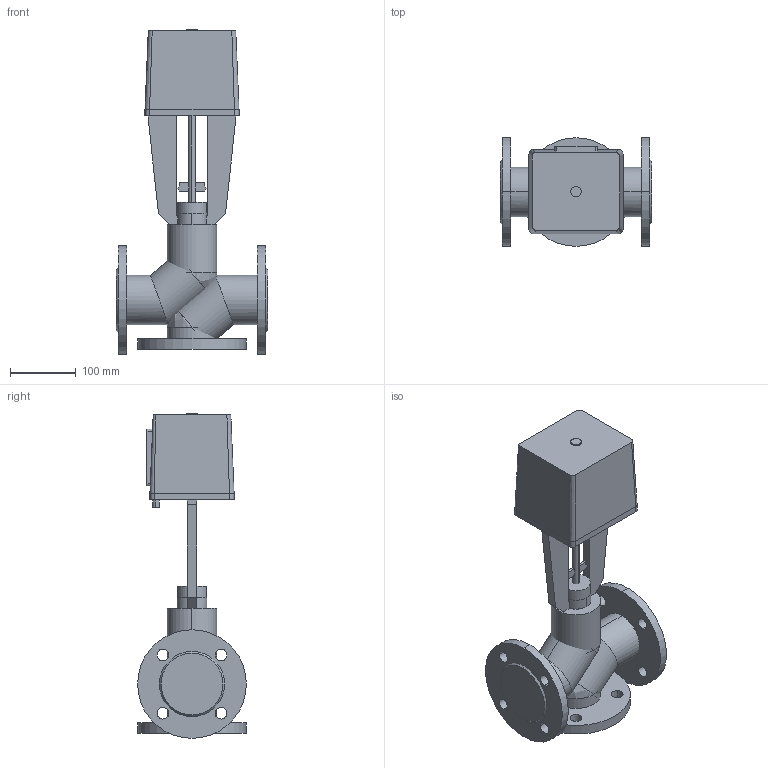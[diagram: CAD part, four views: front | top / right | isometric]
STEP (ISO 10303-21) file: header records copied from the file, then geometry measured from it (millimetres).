
FILE_DESCRIPTION(/* description */ (''),/* implementation_level */ '2;1');
FILE_NAME(/* name */ 'ТРК DN50 PN 1.6 МПа LEA 1200',/* time_stamp */ '2026-07-14T23:10:12+03:00',/* author */ (''),/* organization */ (''),/* preprocessor_version */ 'ST-DEVELOPER v20',/* originating_system */ '',/* authorisation */ '');
FILE_SCHEMA (('AP242_MANAGED_MODEL_BASED_3D_ENGINEERING_MIM_LF { 1 0 10303 442 1 1 4 }'));
Length unit declared in the file: millimetre
Products named in the file (13): TopLevelAssembly; Выдавливание; Модификатор; Модификатор_1; Выдавливание_
1; Выдавливание_
2; Вращение; Выдавливание_
3; Выдавливание_
4; 1600; Переход; Объемная геометрия 
присоединена; Объемная геометрия 
присоединена_1
Assembly tree (12 placements, depth 2):
  TopLevelAssembly
    Выдавливание
    Модификатор
    Модификатор_1
    Выдавливание_
1
    Выдавливание_
2
    Вращение
    Выдавливание_
3
    Выдавливание_
4
    1600
    Переход
    Объемная геометрия 
присоединена
    Объемная геометрия 
присоединена_1
Bounding box: 230 x 165 x 493.5 mm (x, y, z)
Volume: 5140512.2 mm3; surface area: 506657.7 mm2
Topology: 17 solids, 17 shells, 156 faces, 363 edges, 238 vertices
Faces by surface type: plane 76, cylinder 68, bspline 8, cone 4
Entity records: 5091 total; most frequent: CARTESIAN_POINT 962, DIRECTION 868, ORIENTED_EDGE 710, EDGE_CURVE 355, AXIS2_PLACEMENT_3D 340, VERTEX_POINT 238, EDGE_LOOP 191, LINE 188
